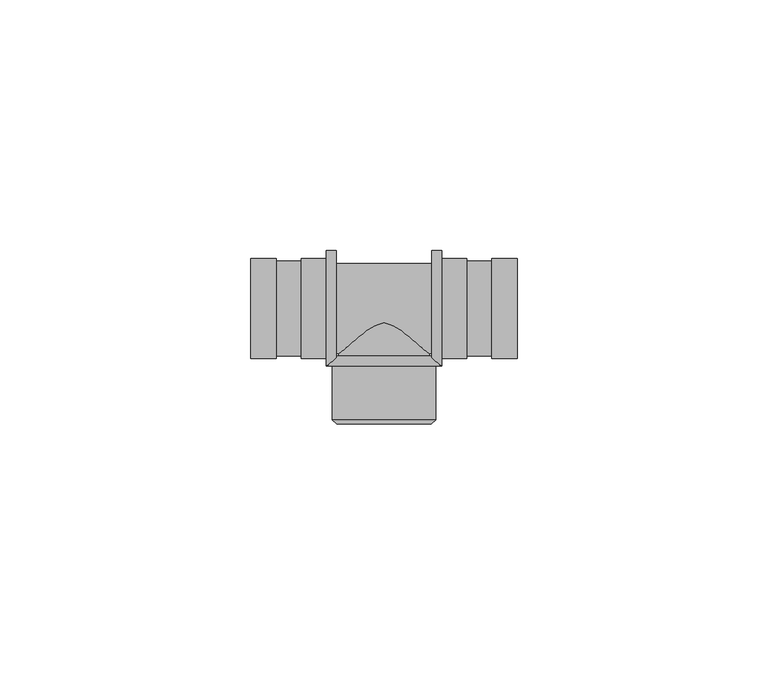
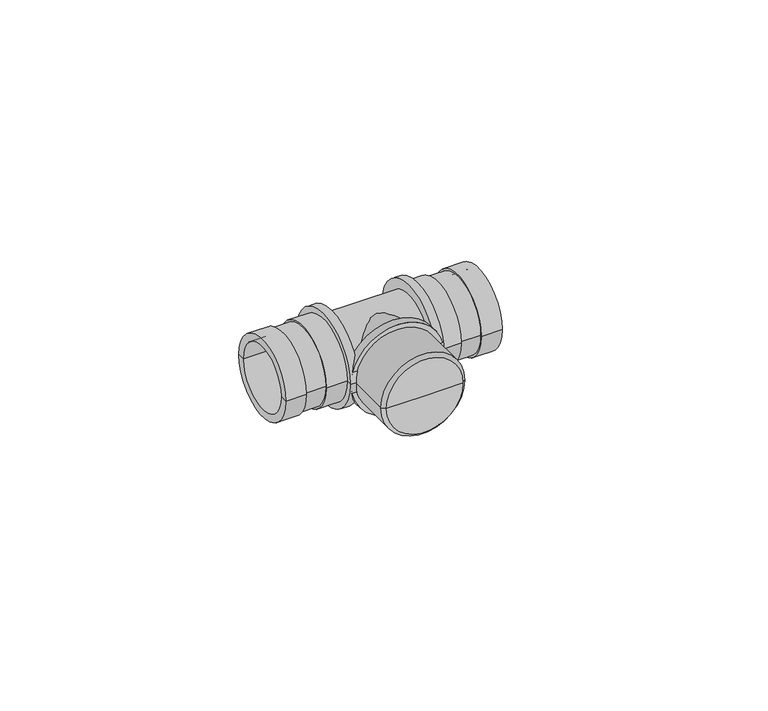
"""IFC4 building model written with IfcOpenShell, lengths in millimetres: pipe fitting geometry, Astra - Tê com Saída Macho - KSM e KTM : Astra - Tê com Saída Macho - KSM e KTM."""

from ifc_helpers import new_model, si_unit, frame, origin, place, context, project, spatial, polyline, circle_curve, source, transform, mapped, element, save
from ifc_brep_helpers import plane_surface, cylinder_surface, revolved_surface, advanced_brep


def pipe_fitting_7faf6eb1(model_context):
    return source(origin(), model_context, "Body", "AdvancedBrep", [
        advanced_brep(
        [(11.5, -8.15, 0.0), (11.5, 8.15, 0.0), (11.5, 10.0, 0.0), (11.5, -10.0, 0.0), (26.5, -8.15, 0.0), (26.5, 8.15, 0.0), (26.5, -10.0, 0.0), (26.5, 10.0, 0.0), (16.5, 10.0, 0.0), (16.5, -10.0, 0.0), (21.5, -10.0, 0.0), (21.5, 10.0, 0.0), (16.5, 9.5, 0.0), (16.5, -9.5, 0.0), (21.5, 9.5, 0.0), (21.5, -9.5, 0.0)],
        [
            (0, 1, circle_curve(frame((11.5, 0.0, 0.0), z_axis=(1.0, 0.0, 0.0), x_axis=(0.0, 1.0, 0.0)), 8.15)),
            (1, 2),
            (2, 3, circle_curve(frame((11.5, 0.0, 0.0), z_axis=(-1.0, 0.0, 0.0), x_axis=(0.0, 1.0, 0.0)), 10.0)),
            (3, 0),
            (1, 0, circle_curve(frame((11.5, 0.0, 0.0), z_axis=(1.0, 0.0, 0.0), x_axis=(0.0, 1.0, 0.0)), 8.15)),
            (3, 2, circle_curve(frame((11.5, 0.0, 0.0), z_axis=(-1.0, 0.0, 0.0), x_axis=(0.0, 1.0, 0.0)), 10.0)),
            (0, 4),
            (4, 5, circle_curve(frame((26.5, 0.0, 0.0), z_axis=(1.0, 0.0, 0.0), x_axis=(0.0, 1.0, 0.0)), 8.15)),
            (5, 1),
            (5, 4, circle_curve(frame((26.5, 0.0, 0.0), z_axis=(1.0, 0.0, 0.0), x_axis=(0.0, 1.0, 0.0)), 8.15)),
            (4, 6),
            (6, 7, circle_curve(frame((26.5, 0.0, 0.0), z_axis=(1.0, 0.0, 0.0), x_axis=(0.0, 1.0, 0.0)), 10.0)),
            (7, 5),
            (7, 6, circle_curve(frame((26.5, 0.0, 0.0), z_axis=(1.0, 0.0, 0.0), x_axis=(0.0, 1.0, 0.0)), 10.0)),
            (2, 8),
            (8, 9, circle_curve(frame((16.5, 0.0, 0.0), z_axis=(-1.0, 0.0, 0.0), x_axis=(0.0, 1.0, 0.0)), 10.0)),
            (9, 3),
            (6, 10),
            (10, 11, circle_curve(frame((21.5, 0.0, 0.0), z_axis=(1.0, 0.0, 0.0), x_axis=(0.0, 1.0, 0.0)), 10.0)),
            (11, 7),
            (9, 8, circle_curve(frame((16.5, 0.0, 0.0), z_axis=(-1.0, 0.0, 0.0), x_axis=(0.0, 1.0, 0.0)), 10.0)),
            (11, 10, circle_curve(frame((21.5, 0.0, 0.0), z_axis=(1.0, 0.0, 0.0), x_axis=(0.0, 1.0, 0.0)), 10.0)),
            (12, 13, circle_curve(frame((16.5, 0.0, 0.0), z_axis=(-1.0, 0.0, 0.0), x_axis=(0.0, 1.0, 0.0)), 9.5)),
            (13, 9),
            (8, 12),
            (13, 12, circle_curve(frame((16.5, 0.0, 0.0), z_axis=(-1.0, 0.0, 0.0), x_axis=(0.0, 1.0, 0.0)), 9.5)),
            (12, 14),
            (14, 15, circle_curve(frame((21.5, 0.0, 0.0), z_axis=(-1.0, 0.0, 0.0), x_axis=(0.0, 1.0, 0.0)), 9.5)),
            (15, 13),
            (15, 14, circle_curve(frame((21.5, 0.0, 0.0), z_axis=(-1.0, 0.0, 0.0), x_axis=(0.0, 1.0, 0.0)), 9.5)),
            (14, 11),
            (10, 15),
        ],
        [
            plane_surface(frame((11.5, 0.0, 0.0), z_axis=(-1.0, 0.0, 0.0), x_axis=(0.0, 1.0, 0.0))),
            revolved_surface(polyline([(11.5, 8.15, 0.0), (26.5, 8.15, 0.0)]), (11.5, 0.0, 0.0), (-1.0, 0.0, 0.0)),
            plane_surface(frame((26.5, 0.0, 0.0), z_axis=(1.0, 0.0, 0.0), x_axis=(0.0, 1.0, 0.0))),
            cylinder_surface(frame((11.5, 0.0, 0.0), z_axis=(-1.0, 0.0, 0.0), x_axis=(0.0, 1.0, 0.0)), 10.0),
            plane_surface(frame((16.5, 0.0, 0.0), z_axis=(1.0, 0.0, 0.0), x_axis=(0.0, 1.0, 0.0))),
            cylinder_surface(frame((11.5, 0.0, 0.0), z_axis=(-1.0, 0.0, 0.0), x_axis=(0.0, 1.0, 0.0)), 9.5),
            plane_surface(frame((21.5, 0.0, 0.0), z_axis=(-1.0, 0.0, 0.0), x_axis=(0.0, 1.0, 0.0))),
        ],
        [
            (0, [[1, 2, 3, 4]]),
            (0, [[-2, 5, -4, 6]]),
            (1, [[-1, 7, 8, 9]]),
            (1, [[-5, -9, 10, -7]]),
            (2, [[-8, 11, 12, 13]]),
            (2, [[-10, -13, 14, -11]]),
            (3, [[-3, 15, 16, 17]]),
            (3, [[-12, 18, 19, 20]]),
            (3, [[-6, -17, 21, -15]]),
            (3, [[-14, -20, 22, -18]]),
            (4, [[23, 24, -16, 25]]),
            (4, [[26, -25, -21, -24]]),
            (5, [[-23, 27, 28, 29]]),
            (5, [[-26, -29, 30, -27]]),
            (6, [[-28, 31, -19, 32]]),
            (6, [[-30, -32, -22, -31]]),
        ],
    ),
        advanced_brep(
        [(-26.5, -8.15, 0.0), (-26.5, 8.15, 0.0), (-26.5, 10.0, 0.0), (-26.5, -10.0, 0.0), (-11.5, -8.15, 0.0), (-11.5, 8.15, 0.0), (-11.5, -10.0, 0.0), (-11.5, 10.0, 0.0), (-21.5, 10.0, 0.0), (-21.5, -10.0, 0.0), (-16.5, -10.0, 0.0), (-16.5, 10.0, 0.0), (-21.5, 9.5, 0.0), (-21.5, -9.5, 0.0), (-16.5, 9.5, 0.0), (-16.5, -9.5, 0.0)],
        [
            (0, 1, circle_curve(frame((-26.5, 0.0, 0.0), z_axis=(1.0, 0.0, 0.0), x_axis=(0.0, 1.0, 0.0)), 8.15)),
            (1, 2),
            (2, 3, circle_curve(frame((-26.5, 0.0, 0.0), z_axis=(-1.0, 0.0, 0.0), x_axis=(0.0, 1.0, 0.0)), 10.0)),
            (3, 0),
            (1, 0, circle_curve(frame((-26.5, 0.0, 0.0), z_axis=(1.0, 0.0, 0.0), x_axis=(0.0, 1.0, 0.0)), 8.15)),
            (3, 2, circle_curve(frame((-26.5, 0.0, 0.0), z_axis=(-1.0, 0.0, 0.0), x_axis=(0.0, 1.0, 0.0)), 10.0)),
            (0, 4),
            (4, 5, circle_curve(frame((-11.5, 0.0, 0.0), z_axis=(1.0, 0.0, 0.0), x_axis=(0.0, 1.0, 0.0)), 8.15)),
            (5, 1),
            (5, 4, circle_curve(frame((-11.5, 0.0, 0.0), z_axis=(1.0, 0.0, 0.0), x_axis=(0.0, 1.0, 0.0)), 8.15)),
            (4, 6),
            (6, 7, circle_curve(frame((-11.5, 0.0, 0.0), z_axis=(1.0, 0.0, 0.0), x_axis=(0.0, 1.0, 0.0)), 10.0)),
            (7, 5),
            (7, 6, circle_curve(frame((-11.5, 0.0, 0.0), z_axis=(1.0, 0.0, 0.0), x_axis=(0.0, 1.0, 0.0)), 10.0)),
            (2, 8),
            (8, 9, circle_curve(frame((-21.5, 0.0, 0.0), z_axis=(-1.0, 0.0, 0.0), x_axis=(0.0, 1.0, 0.0)), 10.0)),
            (9, 3),
            (6, 10),
            (10, 11, circle_curve(frame((-16.5, 0.0, 0.0), z_axis=(1.0, 0.0, 0.0), x_axis=(0.0, 1.0, 0.0)), 10.0)),
            (11, 7),
            (9, 8, circle_curve(frame((-21.5, 0.0, 0.0), z_axis=(-1.0, 0.0, 0.0), x_axis=(0.0, 1.0, 0.0)), 10.0)),
            (11, 10, circle_curve(frame((-16.5, 0.0, 0.0), z_axis=(1.0, 0.0, 0.0), x_axis=(0.0, 1.0, 0.0)), 10.0)),
            (12, 13, circle_curve(frame((-21.5, 0.0, 0.0), z_axis=(-1.0, 0.0, 0.0), x_axis=(0.0, 1.0, 0.0)), 9.5)),
            (13, 9),
            (8, 12),
            (13, 12, circle_curve(frame((-21.5, 0.0, 0.0), z_axis=(-1.0, 0.0, 0.0), x_axis=(0.0, 1.0, 0.0)), 9.5)),
            (12, 14),
            (14, 15, circle_curve(frame((-16.5, 0.0, 0.0), z_axis=(-1.0, 0.0, 0.0), x_axis=(0.0, 1.0, 0.0)), 9.5)),
            (15, 13),
            (15, 14, circle_curve(frame((-16.5, 0.0, 0.0), z_axis=(-1.0, 0.0, 0.0), x_axis=(0.0, 1.0, 0.0)), 9.5)),
            (14, 11),
            (10, 15),
        ],
        [
            plane_surface(frame((-26.5, 0.0, 0.0), z_axis=(-1.0, 0.0, 0.0), x_axis=(0.0, 1.0, 0.0))),
            revolved_surface(polyline([(-26.5, 8.15, 0.0), (-11.5, 8.15, 0.0)]), (-26.5, 0.0, 0.0), (-1.0, 0.0, 0.0)),
            plane_surface(frame((-11.5, 0.0, 0.0), z_axis=(1.0, 0.0, 0.0), x_axis=(0.0, 1.0, 0.0))),
            cylinder_surface(frame((-26.5, 0.0, 0.0), z_axis=(-1.0, 0.0, 0.0), x_axis=(0.0, 1.0, 0.0)), 10.0),
            plane_surface(frame((-21.5, 0.0, 0.0), z_axis=(1.0, 0.0, 0.0), x_axis=(0.0, 1.0, 0.0))),
            cylinder_surface(frame((-26.5, 0.0, 0.0), z_axis=(-1.0, 0.0, 0.0), x_axis=(0.0, 1.0, 0.0)), 9.5),
            plane_surface(frame((-16.5, 0.0, 0.0), z_axis=(-1.0, 0.0, 0.0), x_axis=(0.0, 1.0, 0.0))),
        ],
        [
            (0, [[1, 2, 3, 4]]),
            (0, [[-2, 5, -4, 6]]),
            (1, [[-1, 7, 8, 9]]),
            (1, [[-5, -9, 10, -7]]),
            (2, [[-8, 11, 12, 13]]),
            (2, [[-10, -13, 14, -11]]),
            (3, [[-3, 15, 16, 17]]),
            (3, [[-12, 18, 19, 20]]),
            (3, [[-6, -17, 21, -15]]),
            (3, [[-14, -20, 22, -18]]),
            (4, [[23, 24, -16, 25]]),
            (4, [[26, -25, -21, -24]]),
            (5, [[-23, 27, 28, 29]]),
            (5, [[-26, -29, 30, -27]]),
            (6, [[-28, 31, -19, 32]]),
            (6, [[-30, -32, -22, -31]]),
        ],
    ),
        advanced_brep(
        [(9.5, -11.5, 0.0), (9.5, 11.5, 0.0), (11.5, 11.5, 0.0), (11.5, -11.5, 0.0), (10.3, -11.5, 0.0), (9.5, -9.0, 0.0), (9.5, 9.0, 0.0), (-9.5, -9.0, 0.0), (-9.5, 9.0, 0.0), (-9.5, -11.5, 0.0), (-9.5, 11.5, 0.0), (-10.3, -11.5, 0.0), (-11.5, -11.5, 0.0), (-11.5, 11.5, 0.0), (-11.5, 0.0, 0.0), (11.5, 0.0, 0.0), (-9.4, -23.0, 0.0), (9.4, -23.0, 0.0), (0.0, -23.0, 0.0), (-10.3, -22.2, 0.0), (10.3, -22.2, 0.0), (0.0, -11.5, 0.0)],
        [
            (0, 1, circle_curve(frame((9.5, 0.0, 0.0), z_axis=(1.0, 0.0, 0.0), x_axis=(0.0, 1.0, 0.0)), 11.5)),
            (1, 2),
            (2, 3, circle_curve(frame((11.5, 0.0, 0.0), z_axis=(-1.0, 0.0, 0.0), x_axis=(0.0, 1.0, 0.0)), 11.5)),
            (3, 4),
            (4, 0),
            (1, 0, circle_curve(frame((9.5, 0.0, 0.0), z_axis=(1.0, 0.0, 0.0), x_axis=(0.0, 1.0, 0.0)), 11.5)),
            (0, 4),
            (3, 2, circle_curve(frame((11.5, 0.0, 0.0), z_axis=(-1.0, 0.0, 0.0), x_axis=(0.0, 1.0, 0.0)), 11.5)),
            (0, 5),
            (5, 6, circle_curve(frame((9.5, 0.0, 0.0), z_axis=(1.0, 0.0, 0.0), x_axis=(0.0, 1.0, 0.0)), 9.0)),
            (6, 1),
            (6, 5, circle_curve(frame((9.5, 0.0, 0.0), z_axis=(1.0, 0.0, 0.0), x_axis=(0.0, 1.0, 0.0)), 9.0)),
            (5, 7),
            (7, 8, circle_curve(frame((-9.5, 0.0, 0.0), z_axis=(1.0, 0.0, 0.0), x_axis=(0.0, 1.0, 0.0)), 9.0)),
            (8, 6),
            (8, 7, circle_curve(frame((-9.5, 0.0, 0.0), z_axis=(1.0, 0.0, 0.0), x_axis=(0.0, 1.0, 0.0)), 9.0)),
            (7, 9),
            (9, 10, circle_curve(frame((-9.5, 0.0, 0.0), z_axis=(1.0, 0.0, 0.0), x_axis=(0.0, 1.0, 0.0)), 11.5)),
            (10, 8),
            (10, 9, circle_curve(frame((-9.5, 0.0, 0.0), z_axis=(1.0, 0.0, 0.0), x_axis=(0.0, 1.0, 0.0)), 11.5)),
            (9, 11),
            (11, 12),
            (12, 13, circle_curve(frame((-11.5, 0.0, 0.0), z_axis=(1.0, 0.0, 0.0), x_axis=(0.0, 1.0, 0.0)), 11.5)),
            (13, 10),
            (13, 12, circle_curve(frame((-11.5, 0.0, 0.0), z_axis=(1.0, 0.0, 0.0), x_axis=(0.0, 1.0, 0.0)), 11.5)),
            (11, 9),
            (12, 14),
            (14, 13),
            (2, 15),
            (15, 3),
            (16, 17, circle_curve(frame((0.0, -23.0, 0.0), z_axis=(0.0, -1.0, 0.0), x_axis=(1.0, 0.0, 0.0)), 9.4)),
            (17, 18),
            (18, 16),
            (17, 16, circle_curve(frame((0.0, -23.0, 0.0), z_axis=(0.0, -1.0, 0.0), x_axis=(1.0, 0.0, 0.0)), 9.4)),
            (16, 19),
            (19, 20, circle_curve(frame((0.0, -22.2, 0.0), z_axis=(0.0, -1.0, 0.0), x_axis=(1.0, 0.0, 0.0)), 10.3)),
            (20, 17),
            (20, 19, circle_curve(frame((0.0, -22.2, 0.0), z_axis=(0.0, -1.0, 0.0), x_axis=(1.0, 0.0, 0.0)), 10.3)),
            (19, 11),
            (11, 4, circle_curve(frame((0.0, -11.5, 0.0), z_axis=(0.0, -1.0, 0.0), x_axis=(1.0, 0.0, 0.0)), 10.3)),
            (4, 20),
            (4, 11, circle_curve(frame((0.0, -11.5, 0.0), z_axis=(0.0, -1.0, 0.0), x_axis=(1.0, 0.0, 0.0)), 10.3)),
            (9, 21),
            (21, 0),
        ],
        [
            cylinder_surface(frame((-11.5, 0.0, 0.0), z_axis=(-1.0, 0.0, 0.0), x_axis=(0.0, 1.0, 0.0)), 11.5),
            plane_surface(frame((9.5, 0.0, 0.0), z_axis=(-1.0, 0.0, 0.0), x_axis=(0.0, 1.0, 0.0))),
            cylinder_surface(frame((-11.5, 0.0, 0.0), z_axis=(-1.0, 0.0, 0.0), x_axis=(0.0, 1.0, 0.0)), 9.0),
            plane_surface(frame((-9.5, 0.0, 0.0), z_axis=(1.0, 0.0, 0.0), x_axis=(0.0, 1.0, 0.0))),
            plane_surface(frame((-11.5, 0.0, 0.0), z_axis=(-1.0, 0.0, 0.0), x_axis=(0.0, 1.0, 0.0))),
            plane_surface(frame((11.5, 0.0, 0.0), z_axis=(1.0, 0.0, 0.0), x_axis=(0.0, 1.0, 0.0))),
            plane_surface(frame((0.0, -23.0, 0.0), z_axis=(0.0, -1.0, 0.0), x_axis=(1.0, 0.0, 0.0))),
            revolved_surface(polyline([(9.4, -23.0, 0.0), (10.3, -22.2, 0.0)]), (0.0, -11.5, 0.0), (0.0, 1.0, 0.0)),
            cylinder_surface(frame((0.0, -11.5, 0.0), z_axis=(0.0, 1.0, 0.0), x_axis=(1.0, 0.0, 0.0)), 10.3),
            plane_surface(frame((0.0, -11.5, 0.0), z_axis=(0.0, 1.0, 0.0), x_axis=(1.0, 0.0, 0.0))),
        ],
        [
            (0, [[1, 2, 3, 4, 5]]),
            (0, [[-2, 6, 7, -4, 8]]),
            (1, [[-1, 9, 10, 11]]),
            (1, [[-6, -11, 12, -9]]),
            (2, [[-10, 13, 14, 15]]),
            (2, [[-12, -15, 16, -13]]),
            (3, [[-14, 17, 18, 19]]),
            (3, [[-16, -19, 20, -17]]),
            (0, [[-18, 21, 22, 23, 24]]),
            (0, [[-20, -24, 25, -22, 26]]),
            (4, [[-23, 27, 28]]),
            (4, [[-25, -28, -27]]),
            (5, [[-3, 29, 30]]),
            (5, [[-8, -30, -29]]),
            (6, [[31, 32, 33]]),
            (6, [[-32, 34, -33]]),
            (7, [[-31, 35, 36, 37]]),
            (7, [[-34, -37, 38, -35]]),
            (8, [[-36, 39, 40, 41]]),
            (8, [[-38, -41, 42, -39]]),
            (9, [[-40, -21, 43, 44, -5]]),
            (9, [[-42, -7, -44, -43, -26]]),
        ],
    ),
        advanced_brep(
        [(-11.5, -9.5, 0.0), (11.5, -9.5, 0.0), (11.5, -11.5, 0.0), (-11.5, -11.5, 0.0), (-9.0, -9.5, 0.0), (9.0, -9.5, 0.0), (-9.0, 0.0, 0.0), (9.0, 0.0, 0.0), (0.0, -11.5, 0.0), (0.0, 0.0, 0.0)],
        [
            (0, 1, circle_curve(frame((0.0, -9.5, 0.0), z_axis=(0.0, -1.0, 0.0), x_axis=(1.0, 0.0, 0.0)), 11.5)),
            (1, 2),
            (2, 3, circle_curve(frame((0.0, -11.5, 0.0), z_axis=(0.0, 1.0, 0.0), x_axis=(1.0, 0.0, 0.0)), 11.5)),
            (3, 0),
            (1, 0, circle_curve(frame((0.0, -9.5, 0.0), z_axis=(0.0, -1.0, 0.0), x_axis=(1.0, 0.0, 0.0)), 11.5)),
            (3, 2, circle_curve(frame((0.0, -11.5, 0.0), z_axis=(0.0, 1.0, 0.0), x_axis=(1.0, 0.0, 0.0)), 11.5)),
            (4, 5, circle_curve(frame((0.0, -9.5, 0.0), z_axis=(0.0, -1.0, 0.0), x_axis=(1.0, 0.0, 0.0)), 9.0)),
            (5, 1),
            (0, 4),
            (5, 4, circle_curve(frame((0.0, -9.5, 0.0), z_axis=(0.0, -1.0, 0.0), x_axis=(1.0, 0.0, 0.0)), 9.0)),
            (6, 7, circle_curve(frame((0.0, 0.0, 0.0), z_axis=(0.0, -1.0, 0.0), x_axis=(1.0, 0.0, 0.0)), 9.0)),
            (7, 5),
            (4, 6),
            (7, 6, circle_curve(frame((0.0, 0.0, 0.0), z_axis=(0.0, -1.0, 0.0), x_axis=(1.0, 0.0, 0.0)), 9.0)),
            (2, 8),
            (8, 3),
            (9, 7),
            (6, 9),
        ],
        [
            cylinder_surface(frame((0.0, 0.0, 0.0), z_axis=(0.0, 1.0, 0.0), x_axis=(1.0, 0.0, 0.0)), 11.5),
            plane_surface(frame((0.0, -9.5, 0.0), z_axis=(0.0, 1.0, 0.0), x_axis=(1.0, 0.0, 0.0))),
            cylinder_surface(frame((0.0, 0.0, 0.0), z_axis=(0.0, 1.0, 0.0), x_axis=(1.0, 0.0, 0.0)), 9.0),
            plane_surface(frame((0.0, -11.5, 0.0), z_axis=(0.0, -1.0, 0.0), x_axis=(1.0, 0.0, 0.0))),
            plane_surface(frame((0.0, 0.0, 0.0), z_axis=(0.0, 1.0, 0.0), x_axis=(1.0, 0.0, 0.0))),
        ],
        [
            (0, [[1, 2, 3, 4]]),
            (0, [[5, -4, 6, -2]]),
            (1, [[7, 8, -1, 9]]),
            (1, [[10, -9, -5, -8]]),
            (2, [[11, 12, -7, 13]]),
            (2, [[14, -13, -10, -12]]),
            (3, [[-3, 15, 16]]),
            (3, [[-6, -16, -15]]),
            (4, [[17, -11, 18]]),
            (4, [[-18, -14, -17]]),
        ],
    ),
    ])


if __name__ == "__main__":
    model = new_model("IFC4")
    model_context = context("Model", 3, world=origin())
    ifc_project = project(units=[si_unit("LENGTHUNIT", "METRE", prefix="MILLI")], contexts=[model_context])
    site = spatial("IfcSite", under=ifc_project)
    building = spatial("IfcBuilding", under=site)
    placement = place(None, origin())
    pipe_fitting_shape = pipe_fitting_7faf6eb1(model_context)
    element("IfcPipeFitting", 1, ObjectType="Astra - Tê com Saída Macho - KSM e KTM : Astra - Tê com Saída Macho - KSM e KTM", at=placement, inside=building, context=model_context, shape_type="MappedRepresentation", body=[
        mapped(pipe_fitting_shape, transform((0.0, 0.0, 0.0), x_axis=(1.0, 0.0, 0.0), y_axis=(0.0, 1.0, 0.0), z_axis=(0.0, 0.0, 1.0))),
    ])
    save(model, "model.ifc")
